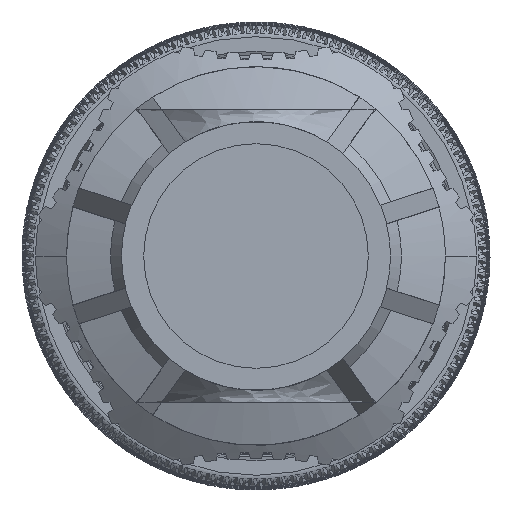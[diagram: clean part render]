
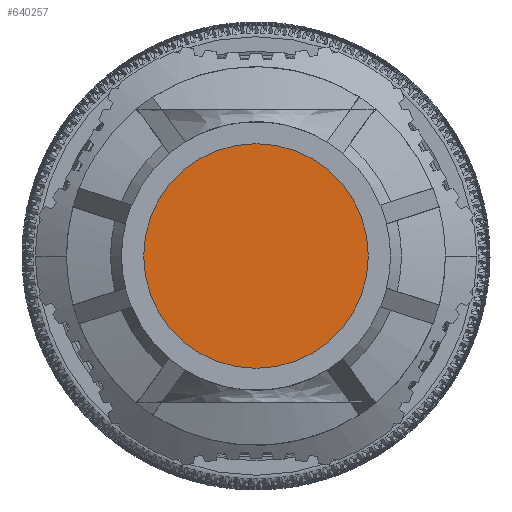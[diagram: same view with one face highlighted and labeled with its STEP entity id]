
A CAD part, front view. The second image highlights one B-rep face of the part: STEP entity #640257.
In plain terms, the highlighted planar face has unit normal (0, -1, 0).
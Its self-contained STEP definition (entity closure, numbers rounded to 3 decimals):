
#217600=CARTESIAN_POINT('',(0.,9.017,0.));
#217601=DIRECTION('',(0.,1.,0.));
#217602=DIRECTION('',(0.,0.,1.));
#217603=AXIS2_PLACEMENT_3D('',#217600,#217601,#217602);
#217605=CARTESIAN_POINT('',(0.,9.017,0.));
#217606=DIRECTION('',(0.,1.,0.));
#217607=DIRECTION('',(0.,0.,-1.));
#217608=AXIS2_PLACEMENT_3D('',#217605,#217606,#217607);
#240533=CARTESIAN_POINT('',(0.,9.017,6.635));
#240534=VERTEX_POINT('',#240533);
#240535=CARTESIAN_POINT('',(0.,9.017,-6.635));
#240536=VERTEX_POINT('',#240535);
#640248=CARTESIAN_POINT('',(0.,9.017,0.));
#640249=DIRECTION('',(0.,-1.,0.));
#640250=DIRECTION('',(0.,0.,1.));
#640251=AXIS2_PLACEMENT_3D('',#640248,#640249,#640250);
#640252=PLANE('',#640251);
#640253=ORIENTED_EDGE('',*,*,#640229,.T.);
#640254=ORIENTED_EDGE('',*,*,#640211,.T.);
#640255=EDGE_LOOP('',(#640253,#640254));
#640256=FACE_OUTER_BOUND('',#640255,.F.);
#640257=ADVANCED_FACE('',(#640256),#640252,.T.);
#217604=CIRCLE('',#217603,6.635);
#217609=CIRCLE('',#217608,6.635);
#640211=EDGE_CURVE('',#240536,#240534,#217609,.T.);
#640229=EDGE_CURVE('',#240534,#240536,#217604,.T.);
